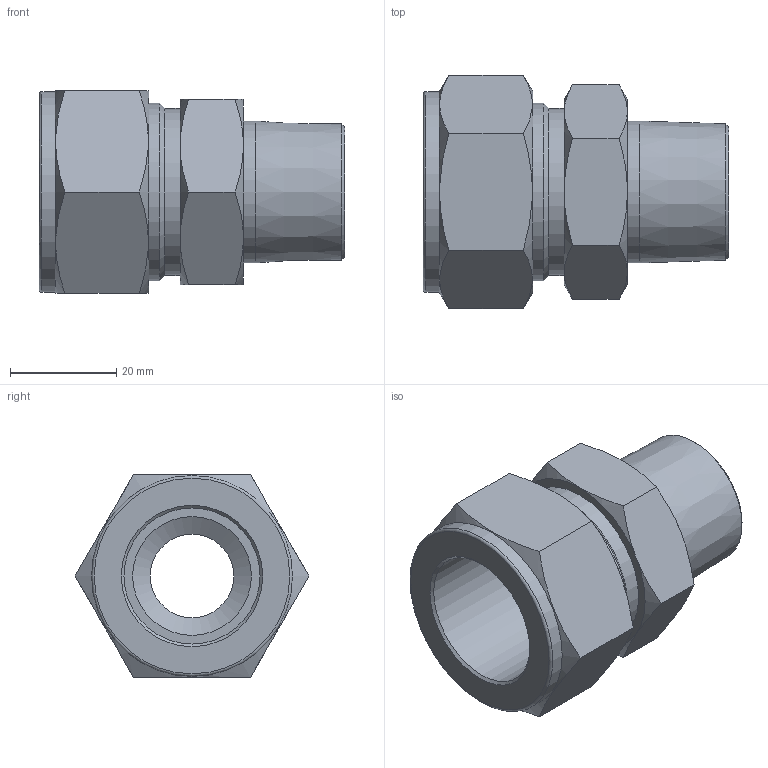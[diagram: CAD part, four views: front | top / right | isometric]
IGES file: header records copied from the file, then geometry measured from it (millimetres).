
Global section: file name: No Iges File Name specified; native system: Autodesk Inventor 2012; preprocessor: AutoDesk Inventor Iges Exporter R2012; author: 硅己绕,,1; organization: 1; date: 20150603.093507; units: millimetre
Bounding box: 57.46 x 43.99 x 38.1 mm (x, y, z)
Volume: 30911.1 mm3; surface area: 12349.1 mm2
Topology: 1 solids, 1 shells, 46 faces, 96 edges, 56 vertices
Faces by surface type: plane 18, cone 17, revolution 6, cylinder 4, torus 1
Full cylindrical faces by diameter (mm): 26.67 x1, 31.45 x1, 33.34 x1, 37.8 x1
